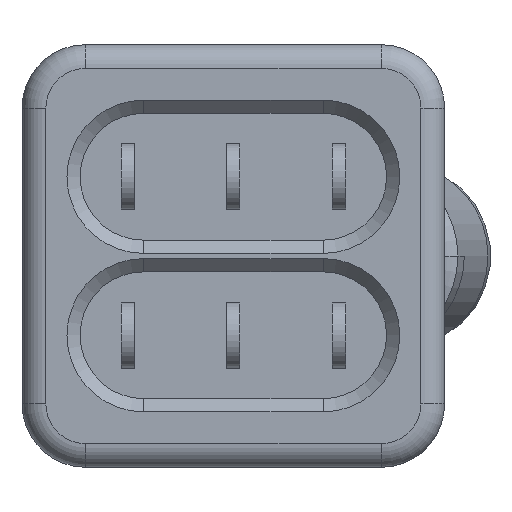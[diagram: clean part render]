
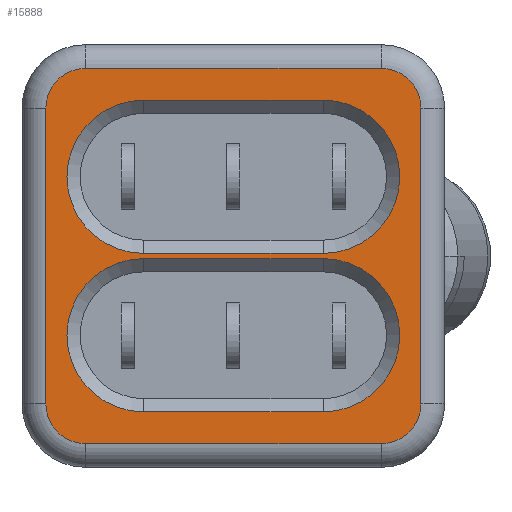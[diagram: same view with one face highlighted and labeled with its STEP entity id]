
A CAD part, front view. The second image highlights one B-rep face of the part: STEP entity #15888.
In plain terms, the highlighted planar face has unit normal (0, -1, 0).
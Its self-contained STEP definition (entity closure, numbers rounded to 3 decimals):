
#4464=CARTESIAN_POINT('',(-5.6,-7.4,5.6));
#4465=DIRECTION('',(0.,-1.,0.));
#4466=DIRECTION('',(0.,0.,1.));
#4467=AXIS2_PLACEMENT_3D('',#4464,#4465,#4466);
#4469=DIRECTION('',(-1.,0.,0.));
#4470=VECTOR('',#4469,11.2);
#4471=CARTESIAN_POINT('',(5.6,-7.4,7.1));
#4472=LINE('',#4471,#4470);
#4473=CARTESIAN_POINT('',(5.6,-7.4,5.6));
#4474=DIRECTION('',(0.,-1.,0.));
#4475=DIRECTION('',(1.,0.,0.));
#4476=AXIS2_PLACEMENT_3D('',#4473,#4474,#4475);
#4478=DIRECTION('',(0.,0.,1.));
#4479=VECTOR('',#4478,11.2);
#4480=CARTESIAN_POINT('',(7.1,-7.4,-5.6));
#4481=LINE('',#4480,#4479);
#4482=CARTESIAN_POINT('',(5.6,-7.4,-5.6));
#4483=DIRECTION('',(0.,-1.,0.));
#4484=DIRECTION('',(0.,0.,-1.));
#4485=AXIS2_PLACEMENT_3D('',#4482,#4483,#4484);
#4487=DIRECTION('',(1.,0.,0.));
#4488=VECTOR('',#4487,11.2);
#4489=CARTESIAN_POINT('',(-5.6,-7.4,-7.1));
#4490=LINE('',#4489,#4488);
#4491=CARTESIAN_POINT('',(-5.6,-7.4,-5.6));
#4492=DIRECTION('',(0.,-1.,0.));
#4493=DIRECTION('',(-1.,0.,0.));
#4494=AXIS2_PLACEMENT_3D('',#4491,#4492,#4493);
#4496=DIRECTION('',(0.,0.,-1.));
#4497=VECTOR('',#4496,11.2);
#4498=CARTESIAN_POINT('',(-7.1,-7.4,5.6));
#4499=LINE('',#4498,#4497);
#4500=DIRECTION('',(-1.,0.,0.));
#4501=VECTOR('',#4500,6.8);
#4502=CARTESIAN_POINT('',(3.4,-7.4,
0.1));
#4503=LINE('',#4502,#4501);
#4504=CARTESIAN_POINT('',(3.4,-7.4,3.));
#4505=DIRECTION('',(0.,1.,0.));
#4506=DIRECTION('',(0.,0.,1.));
#4507=AXIS2_PLACEMENT_3D('',#4504,#4505,#4506);
#4509=DIRECTION('',(1.,0.,0.));
#4510=VECTOR('',#4509,6.8);
#4511=CARTESIAN_POINT('',(-3.4,-7.4,
5.9));
#4512=LINE('',#4511,#4510);
#4513=CARTESIAN_POINT('',(-3.4,-7.4,3.));
#4514=DIRECTION('',(0.,1.,0.));
#4515=DIRECTION('',(0.,0.,-1.));
#4516=AXIS2_PLACEMENT_3D('',#4513,#4514,#4515);
#4518=DIRECTION('',(-1.,0.,0.));
#4519=VECTOR('',#4518,6.8);
#4520=CARTESIAN_POINT('',(3.4,-7.4,
-5.9));
#4521=LINE('',#4520,#4519);
#4522=CARTESIAN_POINT('',(3.4,-7.4,-3.));
#4523=DIRECTION('',(0.,1.,0.));
#4524=DIRECTION('',(0.,0.,1.));
#4525=AXIS2_PLACEMENT_3D('',#4522,#4523,#4524);
#4527=DIRECTION('',(1.,0.,0.));
#4528=VECTOR('',#4527,6.8);
#4529=CARTESIAN_POINT('',(-3.4,-7.4,
-0.1));
#4530=LINE('',#4529,#4528);
#4531=CARTESIAN_POINT('',(-3.4,-7.4,-3.));
#4532=DIRECTION('',(0.,1.,0.));
#4533=DIRECTION('',(0.,0.,-1.));
#4534=AXIS2_PLACEMENT_3D('',#4531,#4532,#4533);
#10363=CARTESIAN_POINT('',(-5.6,-7.4,7.1));
#10364=CARTESIAN_POINT('',(-7.1,-7.4,5.6));
#10365=VERTEX_POINT('',#10363);
#10366=VERTEX_POINT('',#10364);
#10371=CARTESIAN_POINT('',(-7.1,-7.4,-5.6));
#10372=VERTEX_POINT('',#10371);
#10375=CARTESIAN_POINT('',(-5.6,-7.4,-7.1));
#10376=VERTEX_POINT('',#10375);
#10379=CARTESIAN_POINT('',(5.6,-7.4,-7.1));
#10380=VERTEX_POINT('',#10379);
#10383=CARTESIAN_POINT('',(7.1,-7.4,-5.6));
#10384=VERTEX_POINT('',#10383);
#10387=CARTESIAN_POINT('',(7.1,-7.4,5.6));
#10388=VERTEX_POINT('',#10387);
#10391=CARTESIAN_POINT('',(5.6,-7.4,7.1));
#10392=VERTEX_POINT('',#10391);
#10427=CARTESIAN_POINT('',(3.4,-7.4,
0.1));
#10428=CARTESIAN_POINT('',(-3.4,-7.4,
0.1));
#10429=VERTEX_POINT('',#10427);
#10430=VERTEX_POINT('',#10428);
#10431=CARTESIAN_POINT('',(-3.4,-7.4,5.9));
#10432=VERTEX_POINT('',#10431);
#10433=CARTESIAN_POINT('',(3.4,-7.4,
5.9));
#10434=VERTEX_POINT('',#10433);
#10435=CARTESIAN_POINT('',(3.4,-7.4,
-5.9));
#10436=CARTESIAN_POINT('',(-3.4,-7.4,
-5.9));
#10437=VERTEX_POINT('',#10435);
#10438=VERTEX_POINT('',#10436);
#10439=CARTESIAN_POINT('',(-3.4,-7.4,-0.1));
#10440=VERTEX_POINT('',#10439);
#10441=CARTESIAN_POINT('',(3.4,-7.4,
-0.1));
#10442=VERTEX_POINT('',#10441);
#15846=CARTESIAN_POINT('',(0.,-7.4,0.));
#15847=DIRECTION('',(0.,-1.,0.));
#15848=DIRECTION('',(1.,0.,0.));
#15849=AXIS2_PLACEMENT_3D('',#15846,#15847,#15848);
#15850=PLANE('',#15849);
#15851=ORIENTED_EDGE('',*,*,#15836,.F.);
#15853=ORIENTED_EDGE('',*,*,#15852,.F.);
#15855=ORIENTED_EDGE('',*,*,#15854,.F.);
#15857=ORIENTED_EDGE('',*,*,#15856,.F.);
#15859=ORIENTED_EDGE('',*,*,#15858,.F.);
#15861=ORIENTED_EDGE('',*,*,#15860,.F.);
#15863=ORIENTED_EDGE('',*,*,#15862,.F.);
#15865=ORIENTED_EDGE('',*,*,#15864,.F.);
#15866=EDGE_LOOP('',(#15851,#15853,#15855,#15857,#15859,#15861,#15863,#15865));
#15867=FACE_OUTER_BOUND('',#15866,.F.);
#15869=ORIENTED_EDGE('',*,*,#15868,.F.);
#15871=ORIENTED_EDGE('',*,*,#15870,.F.);
#15873=ORIENTED_EDGE('',*,*,#15872,.F.);
#15875=ORIENTED_EDGE('',*,*,#15874,.F.);
#15876=EDGE_LOOP('',(#15869,#15871,#15873,#15875));
#15877=FACE_BOUND('',#15876,.F.);
#15879=ORIENTED_EDGE('',*,*,#15878,.F.);
#15881=ORIENTED_EDGE('',*,*,#15880,.F.);
#15883=ORIENTED_EDGE('',*,*,#15882,.F.);
#15885=ORIENTED_EDGE('',*,*,#15884,.F.);
#15886=EDGE_LOOP('',(#15879,#15881,#15883,#15885));
#15887=FACE_BOUND('',#15886,.F.);
#15888=ADVANCED_FACE('',(#15867,#15877,#15887),#15850,.T.);
#4468=CIRCLE('',#4467,1.5);
#4477=CIRCLE('',#4476,1.5);
#4486=CIRCLE('',#4485,1.5);
#4495=CIRCLE('',#4494,1.5);
#4508=CIRCLE('',#4507,2.9);
#4517=CIRCLE('',#4516,2.9);
#4526=CIRCLE('',#4525,2.9);
#4535=CIRCLE('',#4534,2.9);
#15836=EDGE_CURVE('',#10365,#10366,#4468,.T.);
#15852=EDGE_CURVE('',#10392,#10365,#4472,.T.);
#15854=EDGE_CURVE('',#10388,#10392,#4477,.T.);
#15856=EDGE_CURVE('',#10384,#10388,#4481,.T.);
#15858=EDGE_CURVE('',#10380,#10384,#4486,.T.);
#15860=EDGE_CURVE('',#10376,#10380,#4490,.T.);
#15862=EDGE_CURVE('',#10372,#10376,#4495,.T.);
#15864=EDGE_CURVE('',#10366,#10372,#4499,.T.);
#15868=EDGE_CURVE('',#10429,#10430,#4503,.T.);
#15870=EDGE_CURVE('',#10434,#10429,#4508,.T.);
#15872=EDGE_CURVE('',#10432,#10434,#4512,.T.);
#15874=EDGE_CURVE('',#10430,#10432,#4517,.T.);
#15878=EDGE_CURVE('',#10437,#10438,#4521,.T.);
#15880=EDGE_CURVE('',#10442,#10437,#4526,.T.);
#15882=EDGE_CURVE('',#10440,#10442,#4530,.T.);
#15884=EDGE_CURVE('',#10438,#10440,#4535,.T.);
